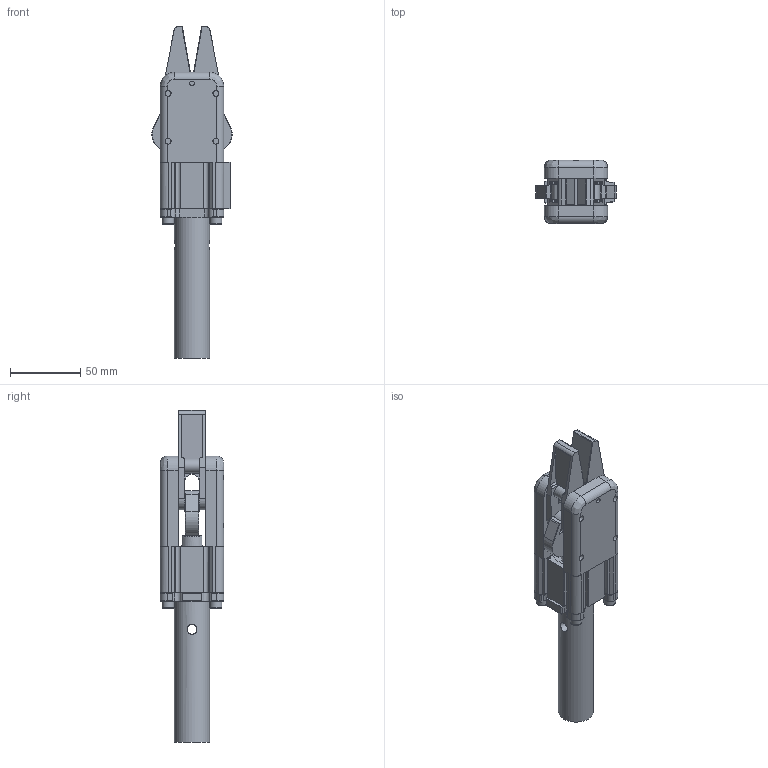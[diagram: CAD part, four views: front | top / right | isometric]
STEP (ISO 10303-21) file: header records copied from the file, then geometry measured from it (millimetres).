
FILE_DESCRIPTION(/* description */ (''),/* implementation_level */ '2;1');
FILE_NAME(/* name */ '8Y00412-GRP32C--25.stp',/* time_stamp */ '2023-02-22T14:38:58+08:00',/* author */ (''),/* organization */ (''),/* preprocessor_version */ 'ST-DEVELOPER v16',/* originating_system */ 'SIEMENS PLM Software NX 10.0',/* authorisation */ '');
FILE_SCHEMA (('AUTOMOTIVE_DESIGN { 1 0 10303 214 3 1 1 1 }'));
Length unit declared in the file: millimetre
Products named in the file (1): _model47
Bounding box: 56.95 x 45 x 235.8 mm (x, y, z)
Volume: 185351 mm3; surface area: 79472.3 mm2
Topology: 11 solids, 17 shells, 633 faces, 1505 edges, 928 vertices
Faces by surface type: plane 373, cylinder 166, cone 85, torus 5, bspline 4
Full cylindrical faces by diameter (mm): 3.3 x1, 4 x1, 4.1 x1, 4.2 x8, 4.5 x1, 5 x4, 5.2 x4, 5.5 x4, 6 x9, 6.647 x1, 6.8 x1, 7 x3, 8 x6, 8.5 x4, 8.566 x2, 8.6 x1, 9 x8, 10 x6, 13 x1, 14 x1, 15 x2, 16 x2, 17 x12, 21 x1, 25 x1, 32 x1, 34 x2
Entity records: 21761 total; most frequent: CARTESIAN_POINT 3166, DIRECTION 3067, ORIENTED_EDGE 2606, EDGE_CURVE 1303, AXIS2_PLACEMENT_3D 1147, VERTEX_POINT 898, EDGE_LOOP 859, LINE 773
